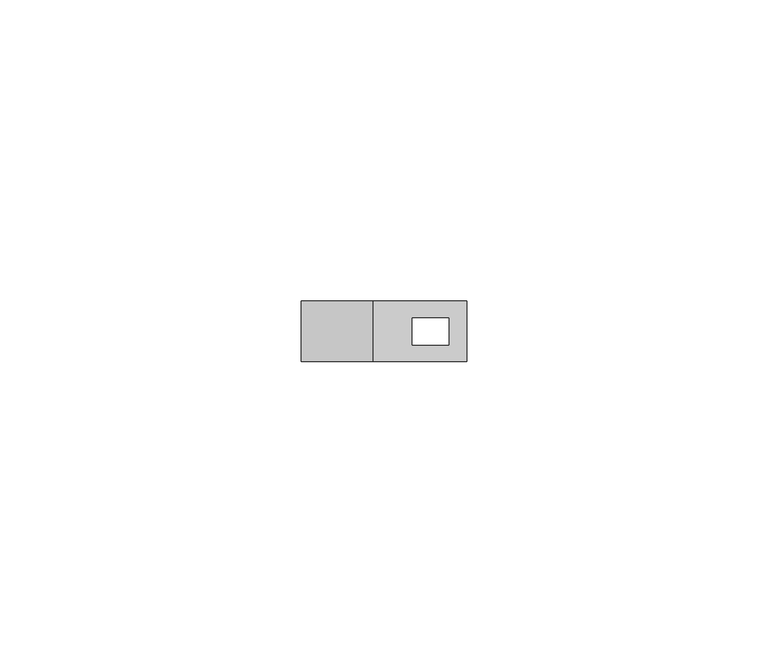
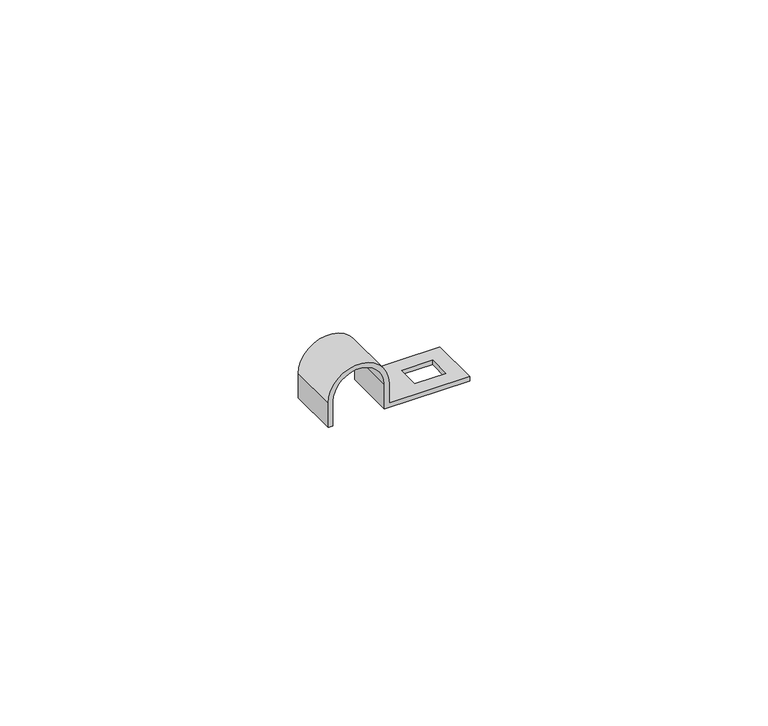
"""IFC4 building model written with IfcOpenShell, lengths in millimetres: cable carrier fitting geometry."""

from ifc_helpers import new_model, si_unit, frame, origin, place, context, project, spatial, polyline, circle_curve, source, transform, mapped, element, save
from ifc_brep_helpers import plane_surface, cylinder_surface, revolved_surface, advanced_brep


def cable_carrier_fitting_dbcab5cf(model_context):
    return source(origin(), model_context, "Body", "AdvancedBrep", [
        advanced_brep(
        [(21.5, -5.0, 0.0), (21.5, -5.0, 0.9), (5.9, -5.0, 0.9), (5.9, -5.0, 5.0), (-5.9, -5.0, 5.0), (-5.9, -5.0, 0.0), (-5.0, -5.0, 0.0), (-5.0, -5.0, 5.0), (5.0, -5.0, 5.0), (5.0, -5.0, 0.0), (21.5, 5.0, 0.0), (5.0, 5.0, 0.0), (5.0, 5.0, 5.0), (-5.0, 5.0, 5.0), (-5.0, 5.0, 0.0), (-5.9, 5.0, 0.0), (-5.9, 5.0, 5.0), (5.9, 5.0, 5.0), (5.9, 5.0, 0.9), (21.5, 5.0, 0.9), (18.5, -2.25, 0.9), (12.5, -2.25, 0.9), (12.5, 2.25, 0.9), (18.5, 2.25, 0.9), (12.5, -2.25, 0.0), (18.5, -2.25, 0.0), (18.5, 2.25, 0.0), (12.5, 2.25, 0.0)],
        [
            (0, 1),
            (1, 2),
            (2, 3),
            (3, 4, circle_curve(frame((0.0, -5.0, 5.0), z_axis=(0.0, -1.0, 0.0), x_axis=(1.0, 0.0, 0.0)), 5.9)),
            (4, 5),
            (5, 6),
            (6, 7),
            (7, 8, circle_curve(frame((0.0, -5.0, 5.0), z_axis=(0.0, 1.0, 0.0), x_axis=(1.0, 0.0, 0.0)), 5.0)),
            (8, 9),
            (9, 0),
            (10, 11),
            (11, 12),
            (12, 13, circle_curve(frame((0.0, 5.0, 5.0), z_axis=(0.0, -1.0, 0.0), x_axis=(1.0, 0.0, 0.0)), 5.0)),
            (13, 14),
            (14, 15),
            (15, 16),
            (16, 17, circle_curve(frame((0.0, 5.0, 5.0), z_axis=(0.0, 1.0, 0.0), x_axis=(1.0, 0.0, 0.0)), 5.9)),
            (17, 18),
            (18, 19),
            (19, 10),
            (0, 10),
            (19, 1),
            (18, 2),
            (20, 21),
            (21, 22),
            (22, 23),
            (23, 20),
            (17, 3),
            (16, 4),
            (15, 5),
            (14, 6),
            (13, 7),
            (12, 8),
            (11, 9),
            (24, 25),
            (25, 26),
            (26, 27),
            (27, 24),
            (24, 21),
            (20, 25),
            (23, 26),
            (22, 27),
        ],
        [
            plane_surface(frame((21.5, -5.0, 0.9), z_axis=(0.0, -1.0, 0.0), x_axis=(0.0, 0.0, 1.0))),
            plane_surface(frame((21.5, 5.0, 0.9), z_axis=(0.0, 1.0, 0.0), x_axis=(0.0, 0.0, -1.0))),
            plane_surface(frame((21.5, -5.0, 0.0), z_axis=(1.0, 0.0, 0.0), x_axis=(0.0, 1.0, 0.0))),
            plane_surface(frame((21.5, -5.0, 0.9), z_axis=(0.0, 0.0, 1.0), x_axis=(0.0, 1.0, 0.0))),
            plane_surface(frame((5.9, -5.0, 0.9), z_axis=(1.0, 0.0, 0.0), x_axis=(0.0, 1.0, 0.0))),
            cylinder_surface(frame((0.0, 5.0, 5.0), z_axis=(0.0, -1.0, 0.0), x_axis=(1.0, 0.0, 0.0)), 5.9),
            plane_surface(frame((-5.9, -5.0, 5.0), z_axis=(-1.0, 0.0, 0.0), x_axis=(0.0, 1.0, 0.0))),
            plane_surface(frame((-5.9, -5.0, 0.0), z_axis=(0.0, 0.0, -1.0), x_axis=(0.0, 1.0, 0.0))),
            plane_surface(frame((-5.0, -5.0, 0.0), z_axis=(1.0, 0.0, 0.0), x_axis=(0.0, 1.0, 0.0))),
            revolved_surface(polyline([(5.0, 5.0, 5.0), (5.0, -5.0, 5.0)]), (0.0, 5.0, 5.0), (0.0, 1.0, 0.0)),
            plane_surface(frame((5.0, -5.0, 5.0), z_axis=(-1.0, 0.0, 0.0), x_axis=(0.0, 1.0, 0.0))),
            plane_surface(frame((5.0, -5.0, 0.0), z_axis=(0.0, 0.0, -1.0), x_axis=(0.0, 1.0, 0.0))),
            plane_surface(frame((12.5, -2.25, 21.959409), z_axis=(0.0, 1.0, 0.0), x_axis=(0.0, 0.0, -1.0))),
            plane_surface(frame((18.5, -2.25, 21.959409), z_axis=(-1.0, 0.0, 0.0), x_axis=(0.0, 0.0, -1.0))),
            plane_surface(frame((18.5, 2.25, 21.959409), z_axis=(0.0, -1.0, 0.0), x_axis=(0.0, 0.0, -1.0))),
            plane_surface(frame((12.5, 2.25, 21.959409), z_axis=(1.0, 0.0, 0.0), x_axis=(0.0, 0.0, -1.0))),
        ],
        [
            (0, [[1, 2, 3, 4, 5, 6, 7, 8, 9, 10]]),
            (1, [[11, 12, 13, 14, 15, 16, 17, 18, 19, 20]]),
            (2, [[-1, 21, -20, 22]]),
            (3, [[-2, -22, -19, 23], [24, 25, 26, 27]]),
            (4, [[-3, -23, -18, 28]]),
            (5, [[-4, -28, -17, 29]]),
            (6, [[-5, -29, -16, 30]]),
            (7, [[-6, -30, -15, 31]]),
            (8, [[-7, -31, -14, 32]]),
            (9, [[-8, -32, -13, 33]]),
            (10, [[-9, -33, -12, 34]]),
            (11, [[-10, -34, -11, -21], [35, 36, 37, 38]]),
            (12, [[39, -24, 40, -35]]),
            (13, [[-40, -27, 41, -36]]),
            (14, [[-41, -26, 42, -37]]),
            (15, [[-39, -38, -42, -25]]),
        ],
    ),
    ])


if __name__ == "__main__":
    model = new_model("IFC4")
    model_context = context("Model", 3, world=origin())
    ifc_project = project(units=[si_unit("LENGTHUNIT", "METRE", prefix="MILLI")], contexts=[model_context])
    site = spatial("IfcSite", under=ifc_project)
    building = spatial("IfcBuilding", under=site)
    placement = place(None, origin())
    cable_carrier_fitting_shape = cable_carrier_fitting_dbcab5cf(model_context)
    element("IfcCableCarrierFitting", 1, at=placement, inside=building, context=model_context, shape_type="MappedRepresentation", body=[
        mapped(cable_carrier_fitting_shape, transform((0.0, 0.0, 0.0), x_axis=(1.0, 0.0, 0.0), y_axis=(0.0, 1.0, 0.0), z_axis=(0.0, 0.0, 1.0))),
    ])
    save(model, "model.ifc")
